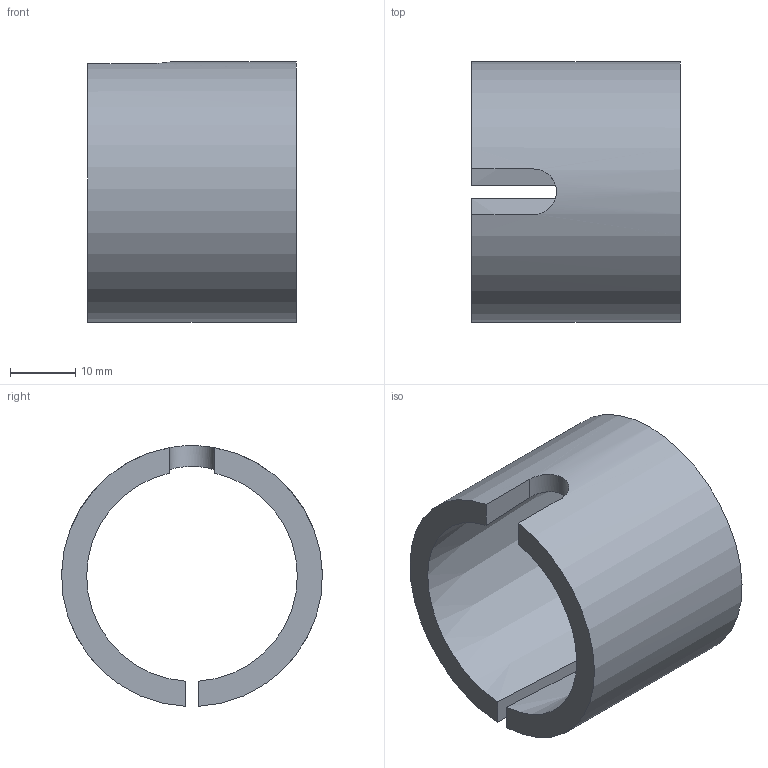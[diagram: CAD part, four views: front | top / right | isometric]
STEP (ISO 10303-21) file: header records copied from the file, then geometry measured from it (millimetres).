
FILE_DESCRIPTION( ( '' ), '1' );
FILE_NAME( 'W:/Catalogue/JF6H/JF6H_OPTION/JF6H65_Sleeve.stp', '2008-05-26T01:08:39', ( '機械事業部産業機器グループ' ), ( '豊和工業株式会社' ), 'XStep 1.0', ' ', ' ' );
FILE_SCHEMA( ( 'CONFIG_CONTROL_DESIGN' ) );
Length unit declared in the file: millimetre
Products named in the file (1): 1
Bounding box: 32 x 39.99 x 39.98 mm (x, y, z)
Volume: 10807.2 mm3; surface area: 8099.1 mm2
Topology: 1 solids, 1 shells, 10 faces, 24 edges, 16 vertices
Faces by surface type: plane 7, cylinder 2, cone 1
Entity records: 416 total; most frequent: CARTESIAN_POINT 141, ORIENTED_EDGE 48, DIRECTION 46, EDGE_CURVE 24, AXIS2_PLACEMENT_3D 17, VERTEX_POINT 16, LINE 12, VECTOR 12
